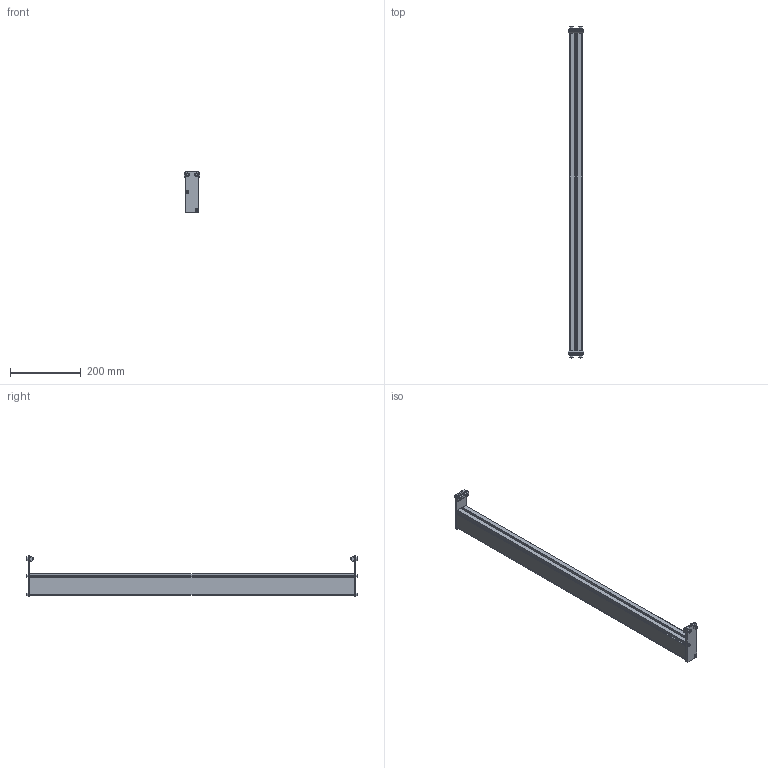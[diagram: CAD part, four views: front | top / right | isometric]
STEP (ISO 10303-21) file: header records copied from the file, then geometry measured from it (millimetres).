
FILE_DESCRIPTION((''),'2;1');
FILE_NAME('350974-36_ASM','2023-03-22T',('jenni.wallner'),(''),'PRO/ENGINEER BY PARAMETRIC TECHNOLOGY CORPORATION, 2012420','PRO/ENGINEER BY PARAMETRIC TECHNOLOGY CORPORATION, 2012420','');
FILE_SCHEMA(('CONFIG_CONTROL_DESIGN'));
Length unit declared in the file: inch
Products named in the file (6): 350979-03614; 350978; 200830M; 920616M; 920416M; 350974-36_ASM
Assembly tree (13 placements, depth 2):
  350974-36_ASM
    350979-03614
    350978  x2
    200830M  x2
    920616M  x4
    920416M  x4
Bounding box: 44.45 x 939.05 x 116.98 mm (x, y, z)
Volume: 773809.4 mm3; surface area: 493911.4 mm2
Topology: 13 solids, 17 shells, 342 faces, 868 edges, 568 vertices
Faces by surface type: plane 168, cylinder 142, cone 32
Entity records: 5990 total; most frequent: DIRECTION 1076, CARTESIAN_POINT 1015, ORIENTED_EDGE 972, EDGE_CURVE 490, AXIS2_PLACEMENT_3D 385, VERTEX_POINT 324, VECTOR 306, LINE 306
